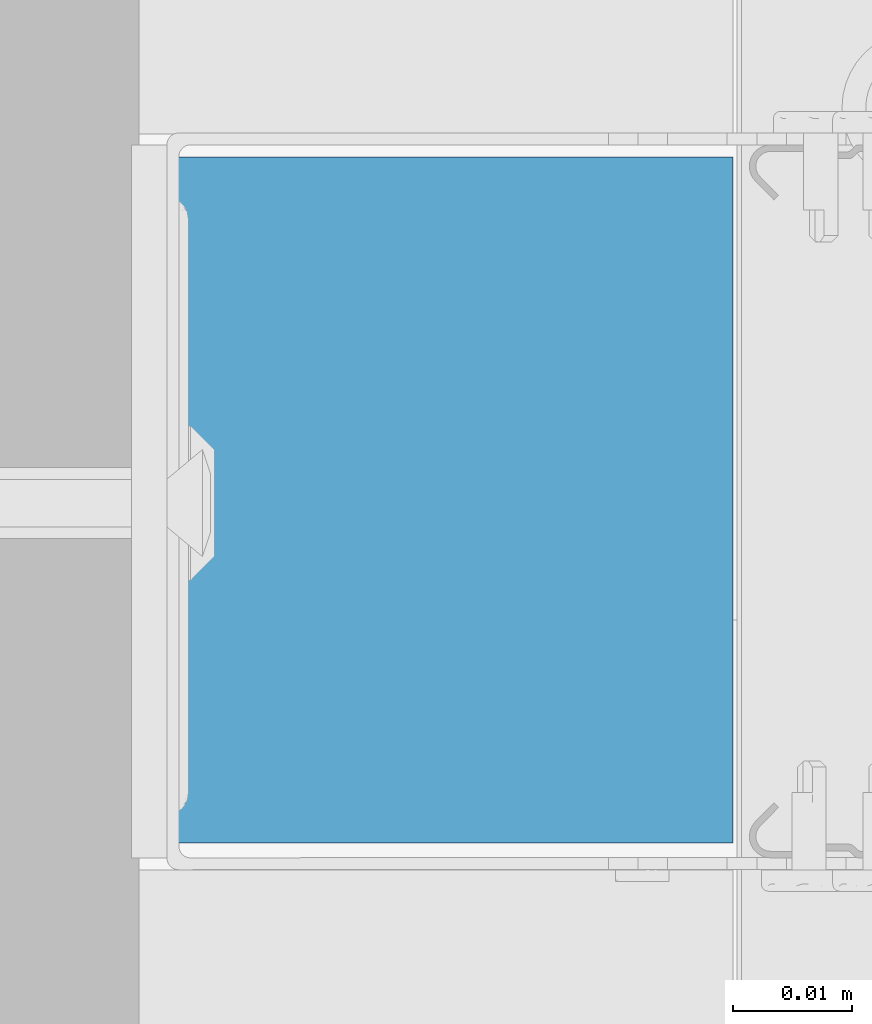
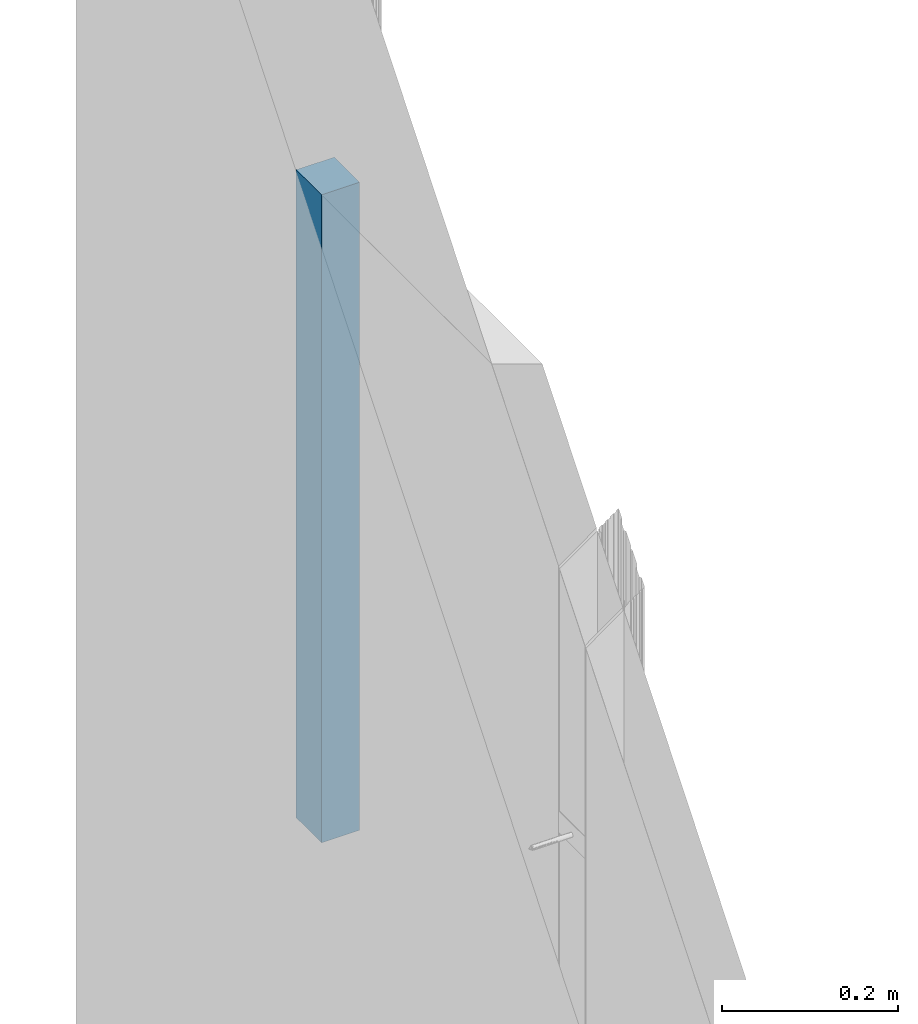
# One storey, part 10 of 62: 1 wall.
"""IFC2X3 building model written with IfcOpenShell, lengths in millimetres."""

import ifcopenshell
import ifcopenshell.guid

model = None  # the IFC model being written
_history = None  # IfcOwnerHistory: only IFC2X3 demands one
_inside = {}  # id of a spatial element -> (the spatial element, [elements in it])
_under = {}  # id of a project, library or spatial element -> (it, [spatial elements below it])
_declared = {}  # id of a project -> (the project, [libraries it declares])
_typed = {}  # id of a type object -> (the type object, [elements of that type])
_made_of = {}  # id of a material, layer set ... -> (it, [elements and type objects made of it])


def new_model(schema):
    """Start an empty IFC model of exactly this schema.

    Asked for "IFC4X3", IfcOpenShell would pick the latest addendum, in which some entities
    have other attributes; the version numbers below select the first issue.
    IFC2X3 requires an IfcOwnerHistory on every rooted entity: one is made here for all.
    """
    global model, _history
    if schema == "IFC4X3":
        model = ifcopenshell.file(schema_version=(4, 3, 0, 0))
    else:
        model = ifcopenshell.file(schema=schema)
    _inside.clear()
    _under.clear()
    _declared.clear()
    _typed.clear()
    _made_of.clear()
    _history = None
    if model.schema == "IFC2X3":
        org = make("IfcOrganization", Name="unknown")
        user = make(
            "IfcPersonAndOrganization",
            ThePerson=make("IfcPerson", FamilyName="unknown"),
            TheOrganization=org,
        )
        app = make(
            "IfcApplication",
            ApplicationDeveloper=org,
            Version="unknown",
            ApplicationFullName="unknown",
            ApplicationIdentifier="unknown",
        )
        _history = make(
            "IfcOwnerHistory",
            OwningUser=user,
            OwningApplication=app,
            ChangeAction="ADDED",
            CreationDate=0,
        )
    return model


def make(cls, **values):
    """One entity of the class cls with the attributes given. An attribute that is None is left unset."""
    return model.create_entity(
        cls, **{name: value for name, value in values.items() if value is not None}
    )


def rooted(cls, **values):
    """An entity with a GlobalId (a new one), such as an element, a storey or a relation."""
    return make(cls, GlobalId=ifcopenshell.guid.new(), OwnerHistory=_history, **values)


def si_unit(unit_type, name, prefix=None):
    """IfcSIUnit, for example si_unit("LENGTHUNIT", "METRE", prefix="MILLI")."""
    return make("IfcSIUnit", UnitType=unit_type, Prefix=prefix, Name=name)


def assignment(units):
    """IfcUnitAssignment: the units of a project."""
    return None if units is None else make("IfcUnitAssignment", Units=units)


def point(xyz):
    """IfcCartesianPoint."""
    return None if xyz is None else make("IfcCartesianPoint", Coordinates=xyz)


def direction(xyz):
    """IfcDirection."""
    return None if xyz is None else make("IfcDirection", DirectionRatios=xyz)


def frame(location, z_axis=None, x_axis=None):
    """IfcAxis2Placement3D, a coordinate frame: its origin and axes. An axis left out is left unset."""
    return make(
        "IfcAxis2Placement3D",
        Location=point(location),
        Axis=direction(z_axis),
        RefDirection=direction(x_axis),
    )


def origin_with_axes():
    """The frame at (0, 0, 0) with the z axis (0, 0, 1) and the x axis (1, 0, 0) written out."""
    return frame((0.0, 0.0, 0.0), z_axis=(0.0, 0.0, 1.0), x_axis=(1.0, 0.0, 0.0))


def place(relative_to, where):
    """IfcLocalPlacement: puts the frame where relative to a parent placement (None: the world)."""
    return make(
        "IfcLocalPlacement", PlacementRelTo=relative_to, RelativePlacement=where
    )


def context(
    kind, dimensions, precision=None, world=None, true_north=None, identifier=None
):
    """IfcGeometricRepresentationContext, for example the 3D "Model" context."""
    return make(
        "IfcGeometricRepresentationContext",
        ContextIdentifier=identifier,
        ContextType=kind,
        CoordinateSpaceDimension=dimensions,
        Precision=precision,
        WorldCoordinateSystem=world,
        TrueNorth=true_north,
    )


def subcontext(parent, identifier, kind, view, scale=None):
    """IfcGeometricRepresentationSubContext, for example "Body" below "Model"."""
    return make(
        "IfcGeometricRepresentationSubContext",
        ContextIdentifier=identifier,
        ContextType=kind,
        ParentContext=parent,
        TargetScale=scale,
        TargetView=view,
    )


def project(units=None, contexts=None):
    """IfcProject with its units and contexts."""
    return rooted(
        "IfcProject",
        Name="project",
        RepresentationContexts=contexts,
        UnitsInContext=assignment(units),
    )


def spatial(cls, under=None, at=None, **own):
    """A site, building, storey or space (cls), placed at a placement, below another one or the project."""
    s = rooted(cls, ObjectPlacement=at, **own)
    if under is not None:
        _under.setdefault(under.id(), (under, []))[1].append(s)
    return s


def faces_of(points, faces, orient=None, outer=None):
    """IfcFace entities. A face is a list of loops; a loop is a list of indices into points, from 0.

    orient and outer hold one flag for each loop. By default every Orientation is true, the
    first loop of a face is its IfcFaceOuterBound and the others are IfcFaceBound.
    """
    made = []
    for i, loops in enumerate(faces):
        bounds = []
        for j, loop in enumerate(loops):
            is_outer = j == 0 if outer is None else outer[i][j]
            bounds.append(
                make(
                    "IfcFaceOuterBound" if is_outer else "IfcFaceBound",
                    Bound=make("IfcPolyLoop", Polygon=[points[k] for k in loop]),
                    Orientation=True if orient is None else orient[i][j],
                )
            )
        made.append(make("IfcFace", Bounds=bounds))
    return made


def faceted_brep(points, faces, orient=None, outer=None, voids=None):
    """IfcFacetedBrep: a solid bounded by flat faces; with voids (closed shells), ...WithVoids."""
    shared = [point(p) for p in points]
    hull = make("IfcClosedShell", CfsFaces=faces_of(shared, faces, orient, outer))
    if voids is None:
        return make("IfcFacetedBrep", Outer=hull)
    return make(
        "IfcFacetedBrepWithVoids",
        Outer=hull,
        Voids=[
            make(cls, CfsFaces=faces_of(shared, fs, o, b)) for cls, fs, o, b in voids
        ],
    )


def shape(context_of_items, identifier, shape_type, items):
    """IfcShapeRepresentation: the items that make up one representation, for example the "Body"."""
    return make(
        "IfcShapeRepresentation",
        ContextOfItems=context_of_items,
        RepresentationIdentifier=identifier,
        RepresentationType=shape_type,
        Items=items,
    )


def material(Name=None, Category=None):
    """IfcMaterial."""
    return make("IfcMaterial", Name=Name, Category=Category)


def made_of(thing, what):
    """Note that an element or type object is made of a material, layer set ...; save() writes the relation."""
    if what is not None:
        _made_of.setdefault(what.id(), (what, []))[1].append(thing)
    return thing


def type_object(cls, material=None, **own):
    """A type object (cls), such as IfcWallType, which elements share."""
    return made_of(rooted(cls, **own), material)


def element(
    cls,
    number,
    at=None,
    inside=None,
    cuts=None,
    type_object=None,
    material=None,
    context=None,
    identifier="Body",
    shape_type=None,
    held_by="IfcProductDefinitionShape",
    body=None,
    shapes=None,
    **own,
):
    """One element of the class cls, such as IfcWall. Its Tag is "e" and its number.

    at: its placement. inside: the storey or other place that contains it. cuts: it is an
    opening in that element (IfcRelVoidsElement). A single representation is given by context,
    identifier, shape_type and body (its items); several are given by shapes. held_by: the class
    of the entity that holds the representations. save() writes the other relations.
    """
    e = rooted(cls, Tag="e%d" % number, ObjectPlacement=at, **own)
    if body is not None:
        shapes = [shape(context, identifier, shape_type, body)]
    if shapes is not None:
        e.Representation = make(held_by, Representations=shapes)
    if inside is not None:
        _inside.setdefault(inside.id(), (inside, []))[1].append(e)
    if cuts is not None:
        rooted(
            "IfcRelVoidsElement", RelatingBuildingElement=cuts, RelatedOpeningElement=e
        )
    if type_object is not None:
        _typed.setdefault(type_object.id(), (type_object, []))[1].append(e)
    return made_of(e, material)


def aggregate(whole, parts):
    """IfcRelAggregates: a whole, such as a stair, and the parts it consists of."""
    return rooted("IfcRelAggregates", RelatingObject=whole, RelatedObjects=parts)


def save(model, path):
    """Write the relations noted so far, then the file.

    IfcRelAggregates (storeys below a building ...), IfcRelContainedInSpatialStructure (elements
    in a storey), IfcRelDefinesByType, IfcRelAssociatesMaterial and IfcRelDeclares: one each for
    every whole, place, type object, material and project.
    """
    for whole, parts in _under.values():
        aggregate(whole, parts)
    for where, things in _inside.values():
        rooted(
            "IfcRelContainedInSpatialStructure",
            RelatedElements=things,
            RelatingStructure=where,
        )
    for kind, things in _typed.values():
        rooted("IfcRelDefinesByType", RelatedObjects=things, RelatingType=kind)
    for what, things in _made_of.values():
        rooted("IfcRelAssociatesMaterial", RelatedObjects=things, RelatingMaterial=what)
    for by, libraries in _declared.values():
        rooted("IfcRelDeclares", RelatingContext=by, RelatedDefinitions=libraries)
    model.write(path)


model = new_model("IFC2X3")

# Units and contexts
model_context = context("Model", 3, world=origin_with_axes())
body_context = subcontext(model_context, "Body", "Model", "MODEL_VIEW")
ifc_project = project(units=[si_unit("LENGTHUNIT", "METRE", prefix="MILLI"), si_unit("AREAUNIT", "SQUARE_METRE"), si_unit("VOLUMEUNIT", "CUBIC_METRE")], contexts=[model_context])

# Site, building, storey
site_placement = place(None, frame((2152.14102611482, -2015.0250894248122, 57.61556563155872), z_axis=(0.0, 0.0, 1.0), x_axis=(-1.1102230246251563e-16, 1.0, 0.0)))
site = spatial("IfcSite", under=ifc_project, at=site_placement, Name="Default Site", CompositionType="ELEMENT")
building_placement = place(site_placement, origin_with_axes())
building = spatial("IfcBuilding", under=site, at=building_placement, Name="Default Building", CompositionType="ELEMENT")
storey_placement = place(building_placement, origin_with_axes())
storey = spatial("IfcBuildingStorey", under=building, at=storey_placement, Name="Default Building Storey", CompositionType="ELEMENT", Elevation=57.61556563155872)

# Wall
ifc_material = material(Name="Undefined")
wall_type = type_object("IfcWallType", Name="Wypełnienie z wełny mineralnej szklanej ISOVER#1", PredefinedType="NOTDEFINED")
wall_placement = place(storey_placement, frame((3241.176545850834, 5350.42414647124, 895.3595813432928), z_axis=(0.0, 0.0, 1.0), x_axis=(-1.0, 4.718447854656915e-16, 0.0)))
element("IfcWall", 1, at=wall_placement, inside=storey, type_object=wall_type, material=ifc_material, Name="Wypełnienie z wełny mineralnej szklanej ISOVER", context=body_context, shape_type="Brep", body=[
    faceted_brep([(-168.12478005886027, 3328.2832634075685, 911.5436077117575), (-225.8247733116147, 3328.2832634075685, 911.5436077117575), (-225.8247733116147, 3328.2832634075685, 10.28402615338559), (-168.12478005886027, 3328.2832634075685, 10.28402615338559), (-168.12478005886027, 3378.2831687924, 10.28402615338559), (-168.12478005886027, 3378.2831687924, 911.5436077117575), (-225.8247733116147, 3378.283168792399, 911.5436077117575), (-225.8247733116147, 3378.283168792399, 10.28402615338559)], [[[0, 1, 2, 3]], [[3, 4, 5, 0]], [[6, 5, 4, 7]], [[7, 4, 3, 2]]]),
    faceted_brep([(-225.8247733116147, 3328.2832634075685, 911.5436077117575), (-225.8247733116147, 3378.283168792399, 911.5436077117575), (-225.8247733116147, 3378.283168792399, 10.28402615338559), (-225.8247733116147, 3328.2832634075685, 10.28402615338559), (-168.12478005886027, 3328.2832634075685, 911.5436077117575), (-168.12478005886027, 3378.2831687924, 911.5436077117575)], [[[0, 1, 2, 3]], [[0, 4, 5, 1]]]),
])

save(model, "model.ifc")
